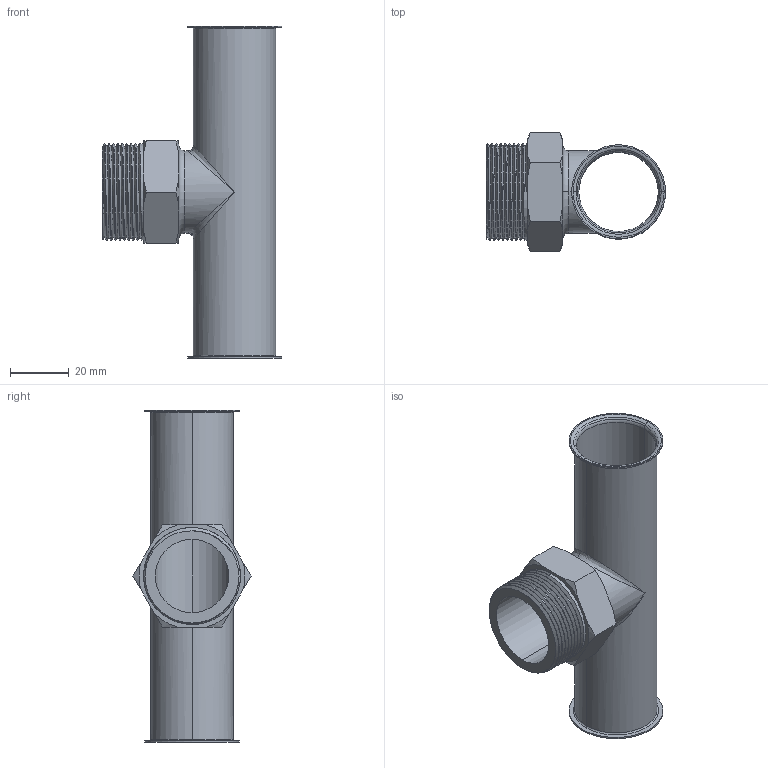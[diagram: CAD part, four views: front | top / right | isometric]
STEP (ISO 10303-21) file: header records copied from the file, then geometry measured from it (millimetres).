
FILE_DESCRIPTION (( 'STEP AP214' ), '1' );
FILE_NAME ('male_Tee_28_1／2, 3／4.STEP', '2016-07-07T00:59:34', ( 'sjh' ), ( '' ), 'SwSTEP 2.0', 'SolidWorks 2014', '' );
FILE_SCHEMA (( 'AUTOMOTIVE_DESIGN' ));
Length unit declared in the file: millimetre
Products named in the file (2): male_Tee_28_1／2, 3／4
Bounding box: 60.99 x 40.18 x 113 mm (x, y, z)
Volume: 16130.8 mm3; surface area: 27389.1 mm2
Topology: 1 solids, 1 shells, 80 faces, 217 edges, 136 vertices
Faces by surface type: cylinder 34, plane 15, cone 14, torus 10, bspline 7
Entity records: 4789 total; most frequent: CARTESIAN_POINT 2960, ORIENTED_EDGE 416, DIRECTION 338, EDGE_CURVE 208, AXIS2_PLACEMENT_3D 140, VERTEX_POINT 134, EDGE_LOOP 88, ADVANCED_FACE 80
